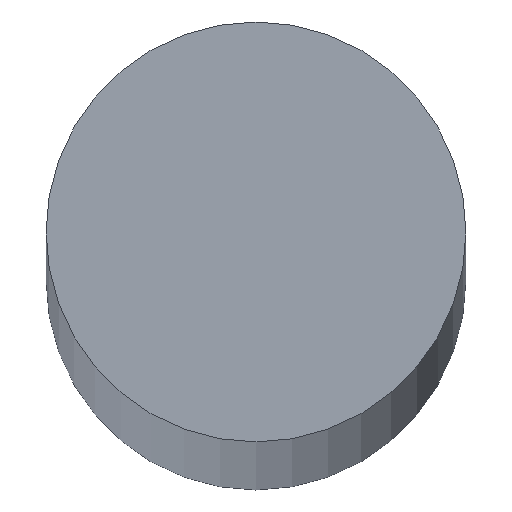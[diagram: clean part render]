
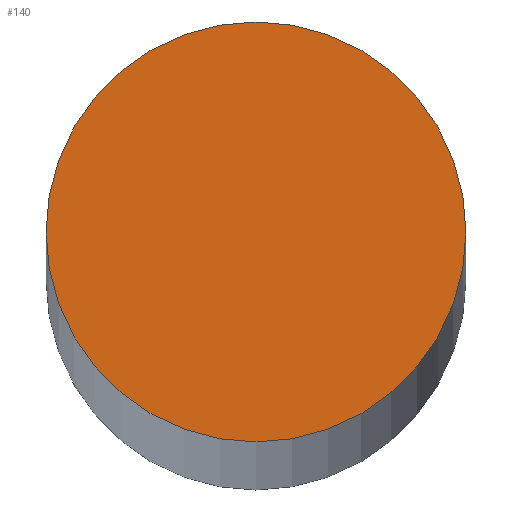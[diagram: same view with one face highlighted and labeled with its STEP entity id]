
A CAD part, top view. The second image highlights one B-rep face of the part: STEP entity #140.
In plain terms, the highlighted planar face has unit normal (0, 0, 1).
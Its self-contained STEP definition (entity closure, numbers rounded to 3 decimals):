
#10 = EDGE_LOOP ( 'NONE', ( #16, #17 ) ) ;
#16 = ORIENTED_EDGE ( 'NONE', *, *, #58, .T. ) ;
#17 = ORIENTED_EDGE ( 'NONE', *, *, #62, .T. ) ;
#28 = CIRCLE ( 'NONE', #53, 6. ) ;
#30 = CIRCLE ( 'NONE', #65, 6. ) ;
#33 = FACE_OUTER_BOUND ( 'NONE', #10, .T. ) ;
#53 = AXIS2_PLACEMENT_3D ( 'NONE', #87, #89, #90 ) ;
#55 = AXIS2_PLACEMENT_3D ( 'NONE', #117, #120, #121 ) ;
#58 = EDGE_CURVE ( 'NONE', #79, #75, #28, .T. ) ;
#62 = EDGE_CURVE ( 'NONE', #75, #79, #30, .T. ) ;
#65 = AXIS2_PLACEMENT_3D ( 'NONE', #93, #95, #96 ) ;
#75 = VERTEX_POINT ( 'NONE', #100 ) ;
#79 = VERTEX_POINT ( 'NONE', #104 ) ;
#87 = CARTESIAN_POINT ( 'NONE',  ( 0., 0., 393.5 ) ) ;
#89 = DIRECTION ( 'NONE',  ( 0., 0., 1. ) ) ;
#90 = DIRECTION ( 'NONE',  ( 1., 0., 0. ) ) ;
#93 = CARTESIAN_POINT ( 'NONE',  ( 0., 0., 393.5 ) ) ;
#95 = DIRECTION ( 'NONE',  ( 0., 0., 1. ) ) ;
#96 = DIRECTION ( 'NONE',  ( 1., 0., 0. ) ) ;
#100 = CARTESIAN_POINT ( 'NONE',  ( 6., 0., 393.5 ) ) ;
#104 = CARTESIAN_POINT ( 'NONE',  ( -6., 0., 393.5 ) ) ;
#117 = CARTESIAN_POINT ( 'NONE',  ( 0., 0., 393.5 ) ) ;
#118 = PLANE ( 'NONE',  #55 ) ;
#120 = DIRECTION ( 'NONE',  ( 0., 0., 1. ) ) ;
#121 = DIRECTION ( 'NONE',  ( 1., 0., 0. ) ) ;
#140 = ADVANCED_FACE ( 'NONE', ( #33 ), #118, .T. ) ;
